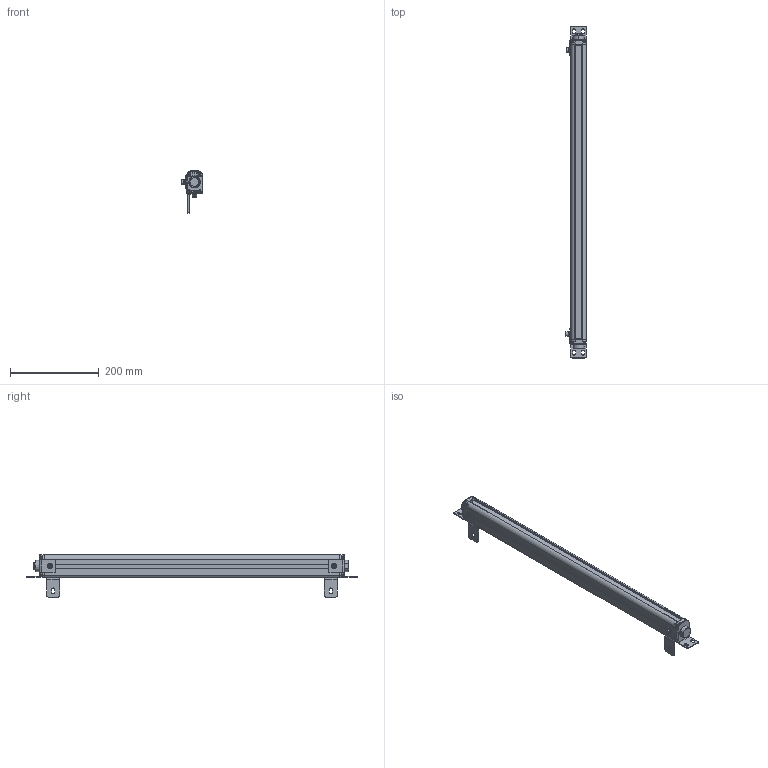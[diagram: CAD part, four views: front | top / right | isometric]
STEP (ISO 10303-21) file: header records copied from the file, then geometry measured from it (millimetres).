
FILE_DESCRIPTION((''),'2;1');
FILE_NAME('ESN--000_ASM','2021-08-10T21:23:35',('18720616900'),(''),'CREO PARAMETRIC BY PTC INC, 2019010','CREO PARAMETRIC BY PTC INC, 2019010','');
FILE_SCHEMA(('CONFIG_CONTROL_DESIGN'));
Products named in the file (22): 00; 000; _0002; _0003; _0004; 5000; 5--0001; ESN_50001_ASM; ST-3-120001; L10001; M6-8--0001; M6-1--00; M6-1-00; M6-80001_ASM; L1--0001_ASM; H1--000; H1--0003_ASM; H1--0001_ASM; ESN--000_ASM
Assembly tree (35 placements, depth 4):
  ESN--000_ASM
    00
    000
    _0002
    _0003
    _0004
    000
    ESN_50001_ASM
      5000
      5--0001  x5
    ST-3-120001  x8
    L1--0001_ASM  x2
      L10001
      M6-80001_ASM
        M6-8--0001
        M6-1--00
        M6-1-00
        00
    H1--0003_ASM
      H1--000
      M6-80001_ASM
        M6-8--0001
        M6-1--00
        M6-1-00
        00
    H1--0001_ASM
      H1--000
      M6-80001_ASM
        M6-8--0001
        M6-1--00
        M6-1-00
        00
Bounding box: 46.5 x 747 x 94.95 mm (x, y, z)
Volume: 1042295 mm3; surface area: 235982.3 mm2
Topology: 40 solids, 40 shells, 1785 faces, 4708 edges, 3012 vertices
Faces by surface type: plane 583, cylinder 416, bspline 362, cone 291, torus 107, sphere 26
Entity records: 48222 total; most frequent: CARTESIAN_POINT 24957, ORIENTED_EDGE 5136, DIRECTION 4189, EDGE_CURVE 2568, VERTEX_POINT 1669, AXIS2_PLACEMENT_3D 1488, VECTOR 1213, LINE 1213
